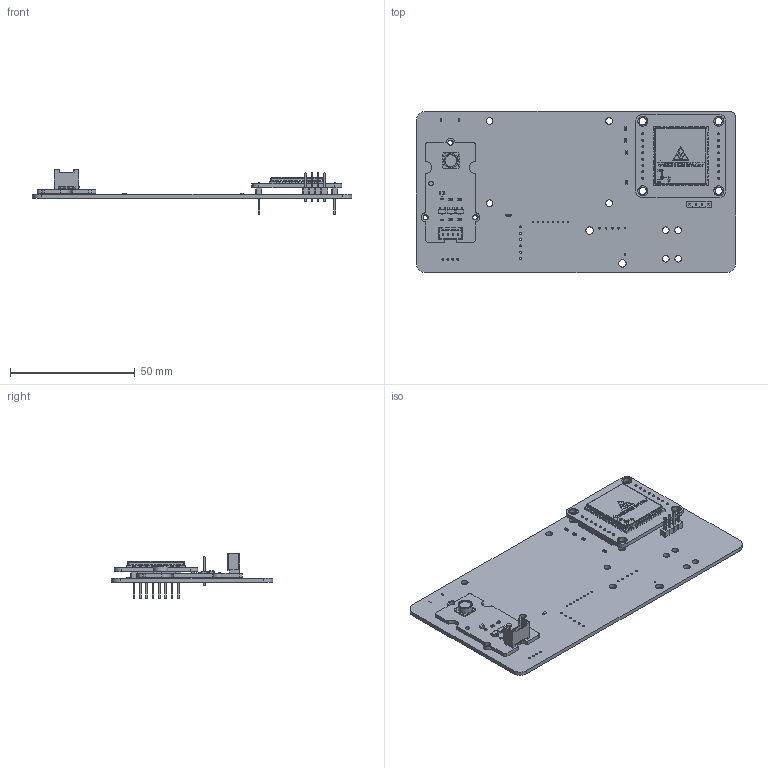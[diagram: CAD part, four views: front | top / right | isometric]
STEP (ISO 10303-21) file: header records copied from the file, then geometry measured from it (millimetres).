
FILE_DESCRIPTION(('KiCad electronic assembly'),'2;1');
FILE_NAME('DevelopmentBoard.step','2021-10-22T01:49:12',('An Author'),( 'A Company'),'Open CASCADE STEP processor 6.9', 'KiCad to STEP converter','Unknown');
FILE_SCHEMA(('AUTOMOTIVE_DESIGN { 1 0 10303 214 1 1 1 1 }'));
Length unit declared in the file: millimetre
Products named in the file (12): Open CASCADE STEP translator 6.9 1; LED_Green_SMD_0603_WÃ¼rth_150060BS55040; SOLID; PinHeader_1x04_P2.54mm_Vertical; VN-100Breakout; COMPOUND; Grove_Altimeter; Resistor_0603_Text
Assembly tree (14 placements, depth 3):
  Open CASCADE STEP translator 6.9 1
    LED_Green_SMD_0603_WÃ¼rth_150060BS55040
      SOLID
    PinHeader_1x04_P2.54mm_Vertical
      SOLID
    VN-100Breakout
      COMPOUND
    Grove_Altimeter
      COMPOUND
    Resistor_0603_Text  x4
      COMPOUND
    COMPOUND
Bounding box: 128.27 x 64.77 x 18.04 mm (x, y, z)
Volume: 17741.2 mm3; surface area: 26341.1 mm2
Topology: 83 solids, 83 shells, 3272 faces, 8531 edges, 5456 vertices
Faces by surface type: plane 2164, cylinder 579, extrusion 272, bspline 167, sphere 48, torus 42
Full cylindrical faces by diameter (mm): 0.1 x1, 0.2 x2, 0.5 x2, 0.55 x8, 0.635 x4, 0.762 x38, 0.8 x10, 1 x4, 1.8 x1, 2 x3, 2.1 x3, 2.7 x8, 3 x10, 4 x4, 5 x1, 5.8 x1
Entity records: 209718 total; most frequent: CARTESIAN_POINT 57976, DIRECTION 25579, VECTOR 17496, LINE 17428, ORIENTED_EDGE 14290, PCURVE 14290, DEFINITIONAL_REPRESENTATION 14290, EDGE_CURVE 7145
